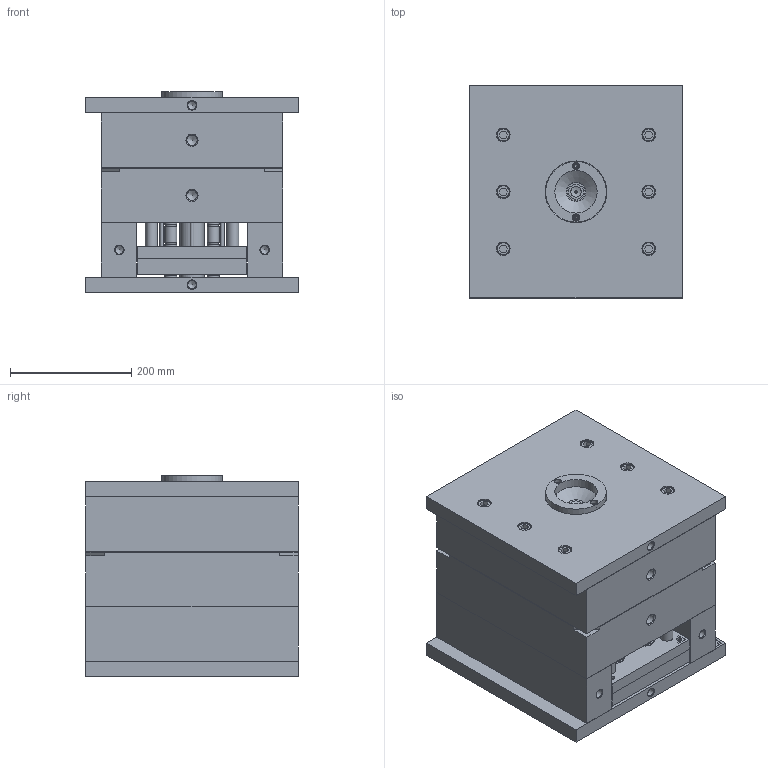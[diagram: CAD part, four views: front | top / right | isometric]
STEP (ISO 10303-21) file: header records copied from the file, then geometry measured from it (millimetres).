
FILE_DESCRIPTION(/* description */ (''),/* implementation_level */ '2;1');
FILE_NAME(/* name */ '17026',/* time_stamp */ '2017-11-24T11:05:52+08:00',/* author */ (''),/* organization */ (''),/* preprocessor_version */ 'ST-DEVELOPER v9',/* originating_system */ 'UGS - NX 4.0',/* authorisation */ '');
FILE_SCHEMA (('AUTOMOTIVE_DESIGN { 1 0 10303 214 1 1 1 1 }'));
Length unit declared in the file: millimetre
Products named in the file (1): AdmiAB1Fwj7m
Bounding box: 350 x 350 x 331 mm (x, y, z)
Volume: 31003696.9 mm3; surface area: 2982415.2 mm2
Topology: 77 solids, 77 shells, 1661 faces, 3696 edges, 2408 vertices
Faces by surface type: plane 782, cylinder 571, cone 201, torus 58, bspline 32, sphere 17
Full cylindrical faces by diameter (mm): 5.2 x2, 6 x38, 6.6 x2, 7 x38, 8 x33, 8.5 x22, 8.502 x4, 8.52 x4, 10 x27, 11 x31, 11.4 x8, 12 x14, 12.02 x12, 13 x7, 14 x24, 15.4 x18, 16 x8, 17 x14, 17.4 x8, 18 x6, 20 x44, 21 x14, 22.4 x12, 25 x9, 25.2 x4, 26 x4, 30 x25, 30.016 x4, 32 x1, 35 x8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
Entity records: 49859 total; most frequent: DIRECTION 7378, CARTESIAN_POINT 7344, ORIENTED_EDGE 5410, AXIS2_PLACEMENT_3D 3083, EDGE_LOOP 2956, EDGE_CURVE 2705, VERTEX_POINT 2183, FACE_BOUND 1870
